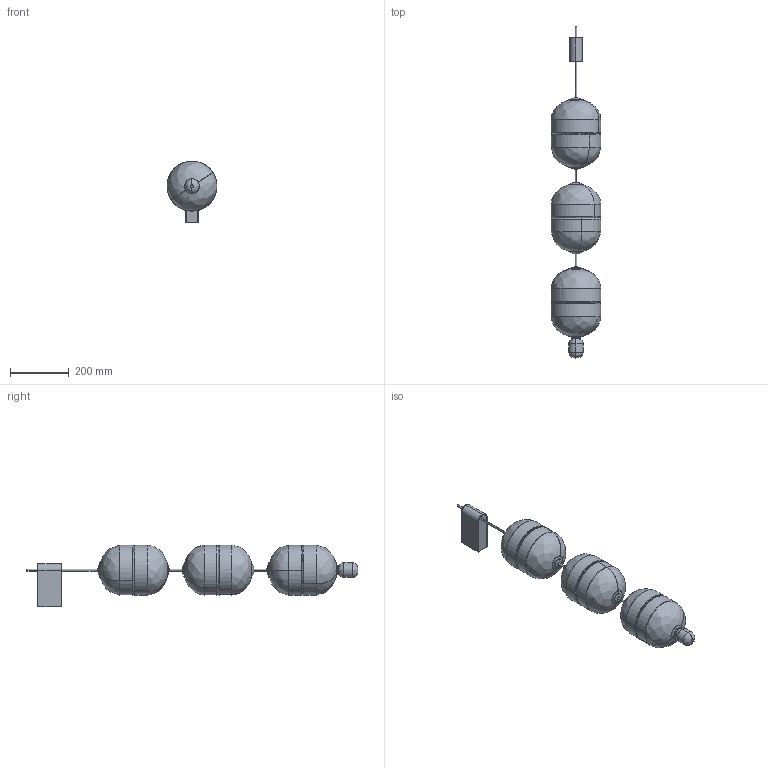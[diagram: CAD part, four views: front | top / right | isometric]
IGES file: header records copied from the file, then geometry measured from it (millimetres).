
Start section: SolidWorks IGES file using analytic representation for surfaces
Global section: file name: C:\Users\liamb\Dropbox\Rakumba Marketing - Design\LIGHTWEIGHT CAD MODEL LIBRARY\Exported File Formats FOR CLIENT USE - Public\Indre\Indre Wall Mount C\Light Weight - Indre - Indre Wall Mount C.IGS; native system: SolidWorks 2017; preprocessor: SolidWorks 2017; author: liamb; date: 230613.171914; units: millimetre
Bounding box: 170 x 1133.5 x 210 mm (x, y, z)
Surface area: 1290895 mm2 (no closed solid volume)
Topology: 0 solids, 0 shells, 387 faces, 4752 edges, 4750 vertices
Faces by surface type: bspline 205, revolution 182
